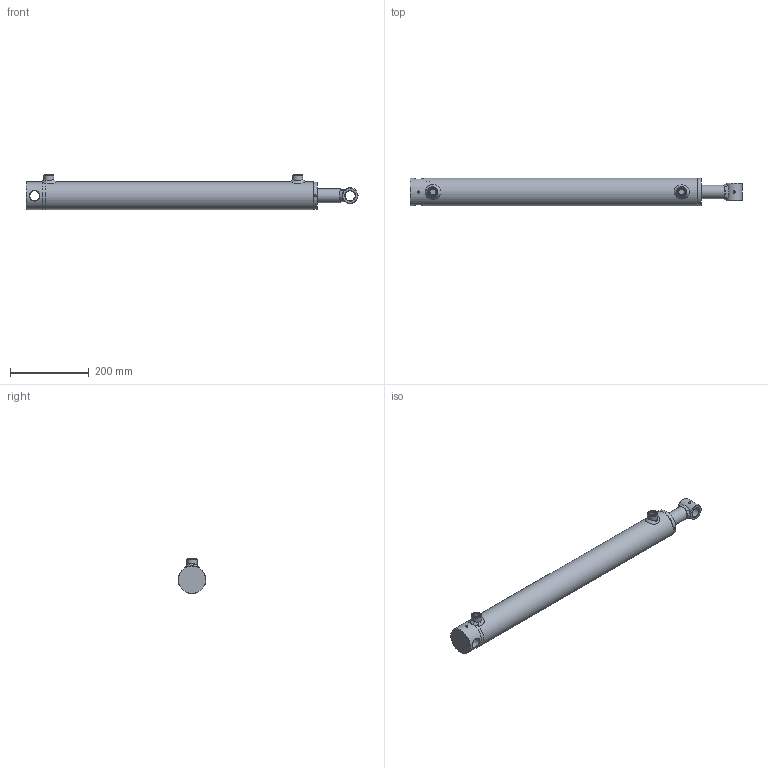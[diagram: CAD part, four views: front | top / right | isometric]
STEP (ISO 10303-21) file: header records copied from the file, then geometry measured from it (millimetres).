
FILE_DESCRIPTION( ( 'Unknown' ), '1' );
FILE_NAME( 'E:/LIBRERIA_3d/CILINDRI/HFR2S/HFR2S0600350600.stp', 'Unknown', ( 'Unknown' ), ( 'Unknown' ), 'PSStep 17.0.49', 'Unknown', ' ' );
FILE_SCHEMA( ( 'AUTOMOTIVE_DESIGN { 1 0 10303 214 1 1 1 1 }' ) );
Length unit declared in the file: millimetre
Products named in the file (21): CG07006035; CTBF060M24-oa4; CTBF060M24-oa3; STF2R0600500600-oa7; Saldatura d'angolo 1-oa5; CBS0600000; MAT_PRIMA_TUBO_FT07006000-oa6; Assem1; CFHR060025047; Saldatura con preparazione 1-oa0; Saldatura d'angolo 1-oa1; Saldatura d'angolo 2-oa2; CBF1025040045; APG0600000; SBF2R350600600-oa8; AVG3006080
Assembly tree (16 placements, depth 3):
  Saldatura d'angolo 1-oa5
  Saldatura d'angolo 1-oa5
  Assem1
    CFHR060025047
    CBS0600000
    Saldatura con preparazione 1-oa0
    Saldatura con preparazione 1-oa0
    CBF1025040045
    APG0600000  x2
    SBF2R350600600-oa8
    AVG3006080
    CTBF060M24-oa4
      CTBF060M24-oa3
    CG07006035
      CG07006035
    STF2R0600500600-oa7
      CBS0600000
      MAT_PRIMA_TUBO_FT07006000-oa6
  Saldatura d'angolo 1-oa1
  Saldatura d'angolo 1-oa1
Bounding box: 842 x 70 x 89 mm (x, y, z)
Volume: 1755867.4 mm3; surface area: 466452.1 mm2
Topology: 19 solids, 19 shells, 275 faces, 588 edges, 355 vertices
Faces by surface type: bspline 68, cylinder 63, plane 62, cone 44, torus 38
Full cylindrical faces by diameter (mm): 5 x4, 5.5 x2, 6 x3, 7 x2, 14.95 x2, 16 x3, 16.6 x2, 22 x3, 24 x1, 25 x3, 25.25 x2, 26 x2, 29.5 x1, 35 x4, 37 x1, 38 x1, 40 x1, 43.6 x1, 45 x1, 48 x1, 55 x1, 56 x2, 59.4 x2, 59.9 x1, 60 x1, 60.3 x1, 60.5 x1, 60.6 x1, 61 x1, 62 x3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
Entity records: 15012 total; most frequent: CARTESIAN_POINT 8418, DIRECTION 786, ORIENTED_EDGE 730, EDGE_LOOP 438, AXIS2_PLACEMENT_3D 382, EDGE_CURVE 365, FACE_OUTER_BOUND 358, VERTEX_POINT 290
